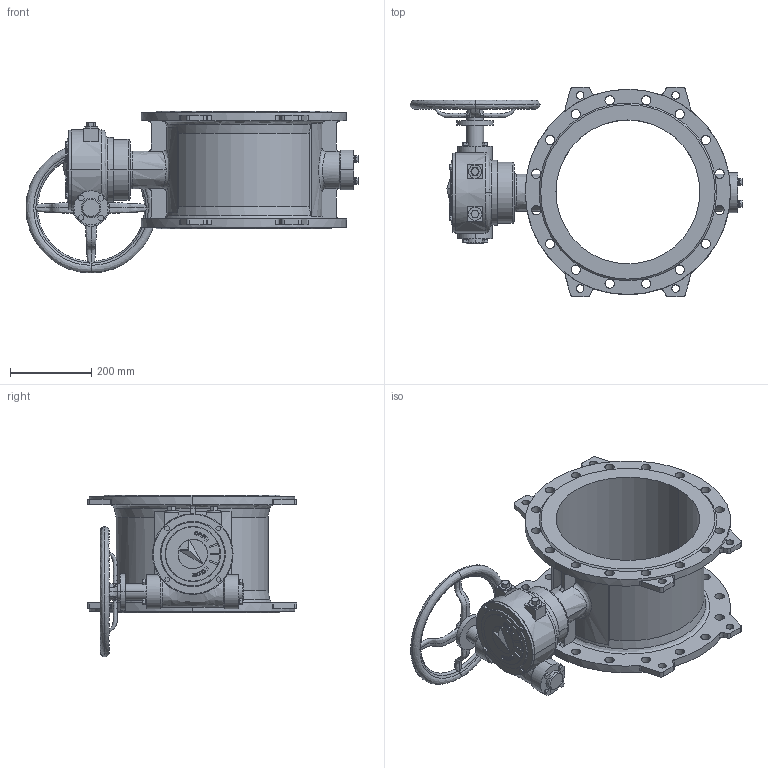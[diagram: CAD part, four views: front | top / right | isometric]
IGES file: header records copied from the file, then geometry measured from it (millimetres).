
Start section: SolidWorks IGES file using NURBS representation for surfaces
Global section: file name: H:\BE BIBLIOTHEQUE 3D\Projet_Biblio3D_2014\VP_TECWAT_ZD\Fichiers\VP TECWAT\A modifier\DN350 PN10.IGS; native system: SolidWorks 2011; preprocessor: SolidWorks 2011; author: a.cartier; date: 150105.092522; units: millimetre
Bounding box: 816.7 x 515 x 398.35 mm (x, y, z)
Volume: 14749561.2 mm3; surface area: 1526187.1 mm2
Topology: 3 solids, 3 shells, 678 faces, 1804 edges, 1184 vertices
Faces by surface type: bspline 678
